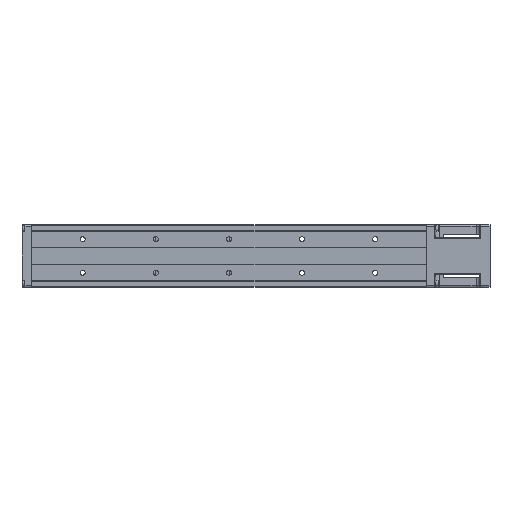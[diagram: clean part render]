
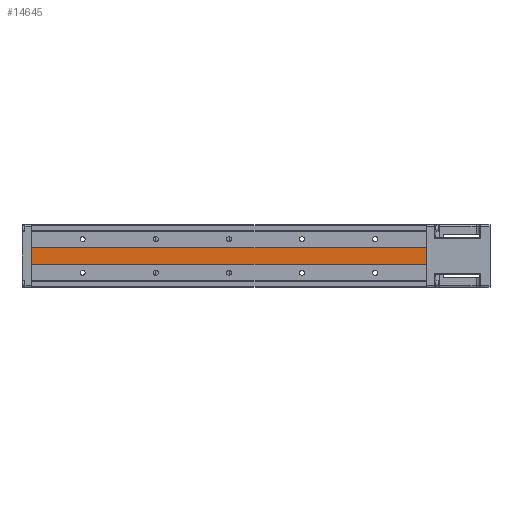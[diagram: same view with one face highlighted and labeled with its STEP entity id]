
A CAD part, front view. The second image highlights one B-rep face of the part: STEP entity #14645.
In plain terms, the highlighted planar face has unit normal (0, -1, 0).
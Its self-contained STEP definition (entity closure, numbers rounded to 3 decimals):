
#38 = LINE ( 'NONE', #5647, #5073 ) ;
#255 = VERTEX_POINT ( 'NONE', #15100 ) ;
#839 = FACE_OUTER_BOUND ( 'NONE', #10616, .T. ) ;
#1563 = CARTESIAN_POINT ( 'NONE',  ( -270., -31.5, -5.5 ) ) ;
#2671 = DIRECTION ( 'NONE',  ( 0., -1., 0. ) ) ;
#3470 = LINE ( 'NONE', #12226, #5957 ) ;
#4133 = EDGE_CURVE ( 'NONE', #255, #9836, #16141, .T. ) ;
#4201 = CARTESIAN_POINT ( 'NONE',  ( 270., -31.5, -11. ) ) ;
#5073 = VECTOR ( 'NONE', #9956, 1000. ) ;
#5510 = ORIENTED_EDGE ( 'NONE', *, *, #4133, .T. ) ;
#5616 = VERTEX_POINT ( 'NONE', #4201 ) ;
#5647 = CARTESIAN_POINT ( 'NONE',  ( -470., -31.5, 11. ) ) ;
#5795 = PLANE ( 'NONE',  #9793 ) ;
#5957 = VECTOR ( 'NONE', #18013, 1000. ) ;
#6098 = CARTESIAN_POINT ( 'NONE',  ( 270., -31.5, 11. ) ) ;
#6326 = DIRECTION ( 'NONE',  ( 0., 0., -1. ) ) ;
#6698 = EDGE_CURVE ( 'NONE', #255, #18230, #38, .T. ) ;
#7009 = EDGE_CURVE ( 'NONE', #9836, #5616, #3470, .T. ) ;
#7189 = CARTESIAN_POINT ( 'NONE',  ( 270., -31.5, -11. ) ) ;
#8875 = VECTOR ( 'NONE', #10421, 1000. ) ;
#9793 = AXIS2_PLACEMENT_3D ( 'NONE', #7189, #2671, #18615 ) ;
#9836 = VERTEX_POINT ( 'NONE', #13124 ) ;
#9956 = DIRECTION ( 'NONE',  ( 1., 0., 0. ) ) ;
#10421 = DIRECTION ( 'NONE',  ( 0., 0., -1. ) ) ;
#10616 = EDGE_LOOP ( 'NONE', ( #5510, #11150, #11224, #14536 ) ) ;
#11150 = ORIENTED_EDGE ( 'NONE', *, *, #7009, .T. ) ;
#11224 = ORIENTED_EDGE ( 'NONE', *, *, #14283, .F. ) ;
#12226 = CARTESIAN_POINT ( 'NONE',  ( -470., -31.5, -11. ) ) ;
#13124 = CARTESIAN_POINT ( 'NONE',  ( -270., -31.5, -11. ) ) ;
#14283 = EDGE_CURVE ( 'NONE', #18230, #5616, #16067, .T. ) ;
#14536 = ORIENTED_EDGE ( 'NONE', *, *, #6698, .F. ) ;
#14645 = ADVANCED_FACE ( 'NONE', ( #839 ), #5795, .T. ) ;
#15100 = CARTESIAN_POINT ( 'NONE',  ( -270., -31.5, 11. ) ) ;
#16067 = LINE ( 'NONE', #16293, #16993 ) ;
#16141 = LINE ( 'NONE', #1563, #8875 ) ;
#16293 = CARTESIAN_POINT ( 'NONE',  ( 270., -31.5, 11. ) ) ;
#16993 = VECTOR ( 'NONE', #6326, 1000. ) ;
#18013 = DIRECTION ( 'NONE',  ( 1., 0., 0. ) ) ;
#18230 = VERTEX_POINT ( 'NONE', #6098 ) ;
#18615 = DIRECTION ( 'NONE',  ( -1., 0., 0. ) ) ;
